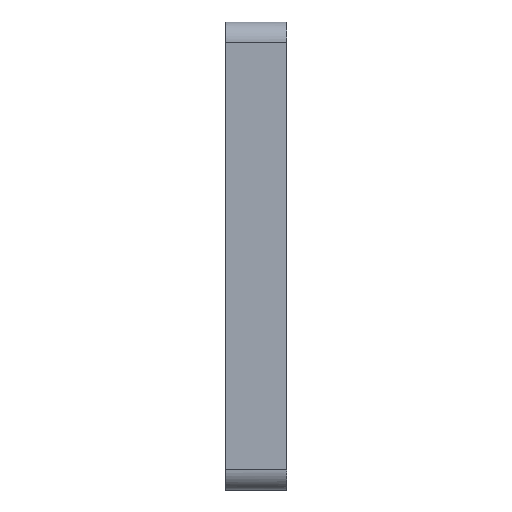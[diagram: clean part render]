
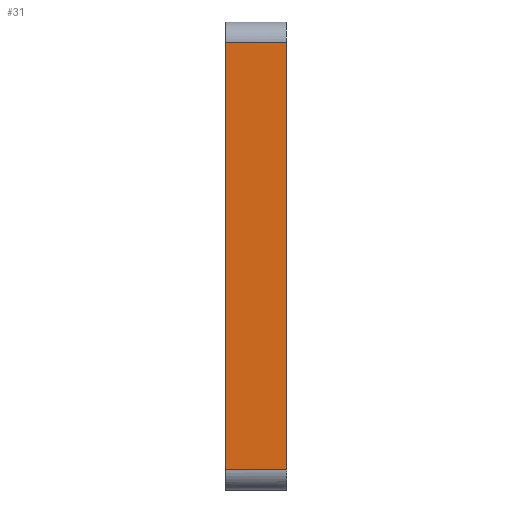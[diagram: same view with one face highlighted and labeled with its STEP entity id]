
A CAD part, left-side view. The second image highlights one B-rep face of the part: STEP entity #31.
In plain terms, the highlighted planar face has unit normal (-1, 0, 0).
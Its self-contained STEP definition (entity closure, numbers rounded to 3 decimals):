
#31=ADVANCED_FACE('',(#57),#951,.T.);
#57=FACE_OUTER_BOUND('',#83,.T.);
#83=EDGE_LOOP('',(#122,#123,#124,#125));
#122=ORIENTED_EDGE('',*,*,#749,.T.);
#123=ORIENTED_EDGE('',*,*,#750,.T.);
#124=ORIENTED_EDGE('',*,*,#751,.T.);
#125=ORIENTED_EDGE('',*,*,#747,.F.);
#263=PCURVE('',#959,#407);
#266=PCURVE('',#951,#410);
#267=PCURVE('',#951,#411);
#268=PCURVE('',#951,#412);
#269=PCURVE('',#951,#413);
#273=PCURVE('',#960,#417);
#358=PCURVE('',#956,#502);
#369=PCURVE('',#957,#513);
#407=DEFINITIONAL_REPRESENTATION('',(#554),#1795);
#410=DEFINITIONAL_REPRESENTATION('',(#558),#1795);
#411=DEFINITIONAL_REPRESENTATION('',(#560),#1795);
#412=DEFINITIONAL_REPRESENTATION('',(#562),#1795);
#413=DEFINITIONAL_REPRESENTATION('',(#563),#1795);
#417=DEFINITIONAL_REPRESENTATION('',(#567),#1795);
#502=DEFINITIONAL_REPRESENTATION('',(#651),#1795);
#513=DEFINITIONAL_REPRESENTATION('',(#654),#1795);
#554=B_SPLINE_CURVE_WITH_KNOTS('',1,(#1277,#1278),.UNSPECIFIED.,.F.,.F.,
(2,2),(0.,3.),.UNSPECIFIED.);
#557=B_SPLINE_CURVE_WITH_KNOTS('',1,(#1286,#1287),.UNSPECIFIED.,.F.,.F.,
(2,2),(-206.416,-185.416),.UNSPECIFIED.);
#558=B_SPLINE_CURVE_WITH_KNOTS('',1,(#1288,#1289),.UNSPECIFIED.,.F.,.F.,
(2,2),(-206.416,-185.416),.UNSPECIFIED.);
#559=B_SPLINE_CURVE_WITH_KNOTS('',1,(#1290,#1291),.UNSPECIFIED.,.F.,.F.,
(2,2),(0.,3.),.UNSPECIFIED.);
#560=B_SPLINE_CURVE_WITH_KNOTS('',1,(#1292,#1293),.UNSPECIFIED.,.F.,.F.,
(2,2),(0.,3.),.UNSPECIFIED.);
#561=B_SPLINE_CURVE_WITH_KNOTS('',1,(#1294,#1295),.UNSPECIFIED.,.F.,.F.,
(2,2),(185.416,206.416),.UNSPECIFIED.);
#562=B_SPLINE_CURVE_WITH_KNOTS('',1,(#1296,#1297),.UNSPECIFIED.,.F.,.F.,
(2,2),(185.416,206.416),.UNSPECIFIED.);
#563=B_SPLINE_CURVE_WITH_KNOTS('',1,(#1298,#1299),.UNSPECIFIED.,.F.,.F.,
(2,2),(0.,3.),.UNSPECIFIED.);
#567=B_SPLINE_CURVE_WITH_KNOTS('',1,(#1314,#1315),.UNSPECIFIED.,.F.,.F.,
(2,2),(0.,3.),.UNSPECIFIED.);
#651=B_SPLINE_CURVE_WITH_KNOTS('',1,(#1649,#1650),.UNSPECIFIED.,.F.,.F.,
(2,2),(-206.416,-185.416),.UNSPECIFIED.);
#654=B_SPLINE_CURVE_WITH_KNOTS('',1,(#1697,#1698),.UNSPECIFIED.,.F.,.F.,
(2,2),(185.416,206.416),.UNSPECIFIED.);
#675=SURFACE_CURVE('',#816,(#263,#269),.PCURVE_S1.);
#677=SURFACE_CURVE('',#557,(#266,#358),.PCURVE_S1.);
#678=SURFACE_CURVE('',#559,(#267,#273),.PCURVE_S1.);
#679=SURFACE_CURVE('',#561,(#268,#369),.PCURVE_S1.);
#747=EDGE_CURVE('',#908,#909,#675,.T.);
#749=EDGE_CURVE('',#908,#910,#677,.T.);
#750=EDGE_CURVE('',#910,#911,#678,.T.);
#751=EDGE_CURVE('',#911,#909,#679,.T.);
#816=(
BOUNDED_CURVE()
B_SPLINE_CURVE(1,(#1275,#1276),.UNSPECIFIED.,.F.,.F.)
B_SPLINE_CURVE_WITH_KNOTS((2,2),(0.,3.),.UNSPECIFIED.)
CURVE()
GEOMETRIC_REPRESENTATION_ITEM()
RATIONAL_B_SPLINE_CURVE((1.,1.))
REPRESENTATION_ITEM('')
);
#908=VERTEX_POINT('',#1196);
#909=VERTEX_POINT('',#1197);
#910=VERTEX_POINT('',#1198);
#911=VERTEX_POINT('',#1199);
#951=PLANE('',#997);
#956=PLANE('',#1002);
#957=PLANE('',#1003);
#959=(
BOUNDED_SURFACE()
B_SPLINE_SURFACE(2,1,((#1025,#1026),(#1027,#1028),(#1029,#1030)),
 .UNSPECIFIED.,.F.,.F.,.F.)
B_SPLINE_SURFACE_WITH_KNOTS((3,3),(2,2),(-207.987,-206.416),
(0.,3.),.UNSPECIFIED.)
GEOMETRIC_REPRESENTATION_ITEM()
RATIONAL_B_SPLINE_SURFACE(((1.,1.),(0.707,0.707),
(1.,1.)))
REPRESENTATION_ITEM('')
SURFACE()
);
#960=(
BOUNDED_SURFACE()
B_SPLINE_SURFACE(2,1,((#1032,#1033),(#1034,#1035),(#1036,#1037)),
 .UNSPECIFIED.,.F.,.F.,.F.)
B_SPLINE_SURFACE_WITH_KNOTS((3,3),(2,2),(-185.416,-183.845),
(0.,3.),.UNSPECIFIED.)
GEOMETRIC_REPRESENTATION_ITEM()
RATIONAL_B_SPLINE_SURFACE(((1.,1.),(0.707,0.707),
(1.,1.)))
REPRESENTATION_ITEM('')
SURFACE()
);
#997=AXIS2_PLACEMENT_3D('',#1031,#1008,$);
#1002=AXIS2_PLACEMENT_3D('',#1152,#1013,$);
#1003=AXIS2_PLACEMENT_3D('',#1153,#1014,$);
#1008=DIRECTION('',(-1.,0.,0.));
#1013=DIRECTION('',(0.,-1.,0.));
#1014=DIRECTION('',(0.,1.,0.));
#1025=CARTESIAN_POINT('',(745.,319.,-72.));
#1026=CARTESIAN_POINT('',(745.,322.,-72.));
#1027=CARTESIAN_POINT('',(744.,319.,-72.));
#1028=CARTESIAN_POINT('',(744.,322.,-72.));
#1029=CARTESIAN_POINT('',(744.,319.,-71.));
#1030=CARTESIAN_POINT('',(744.,322.,-71.));
#1031=CARTESIAN_POINT('',(744.,319.,-71.));
#1032=CARTESIAN_POINT('',(744.,319.,-50.));
#1033=CARTESIAN_POINT('',(744.,322.,-50.));
#1034=CARTESIAN_POINT('',(744.,319.,-49.));
#1035=CARTESIAN_POINT('',(744.,322.,-49.));
#1036=CARTESIAN_POINT('',(745.,319.,-49.));
#1037=CARTESIAN_POINT('',(745.,322.,-49.));
#1152=CARTESIAN_POINT('',(800.25,319.,-74.875));
#1153=CARTESIAN_POINT('',(800.25,322.,-74.875));
#1196=CARTESIAN_POINT('',(744.,319.,-71.));
#1197=CARTESIAN_POINT('',(744.,322.,-71.));
#1198=CARTESIAN_POINT('',(744.,319.,-50.));
#1199=CARTESIAN_POINT('',(744.,322.,-50.));
#1275=CARTESIAN_POINT('',(744.,319.,-71.));
#1276=CARTESIAN_POINT('',(744.,322.,-71.));
#1277=CARTESIAN_POINT('',(-206.416,0.));
#1278=CARTESIAN_POINT('',(-206.416,3.));
#1286=CARTESIAN_POINT('',(744.,319.,-71.));
#1287=CARTESIAN_POINT('',(744.,319.,-50.));
#1288=CARTESIAN_POINT('',(-206.416,0.));
#1289=CARTESIAN_POINT('',(-185.416,0.));
#1290=CARTESIAN_POINT('',(744.,319.,-50.));
#1291=CARTESIAN_POINT('',(744.,322.,-50.));
#1292=CARTESIAN_POINT('',(-185.416,0.));
#1293=CARTESIAN_POINT('',(-185.416,3.));
#1294=CARTESIAN_POINT('',(744.,322.,-50.));
#1295=CARTESIAN_POINT('',(744.,322.,-71.));
#1296=CARTESIAN_POINT('',(-185.416,3.));
#1297=CARTESIAN_POINT('',(-206.416,3.));
#1298=CARTESIAN_POINT('',(-206.416,0.));
#1299=CARTESIAN_POINT('',(-206.416,3.));
#1314=CARTESIAN_POINT('',(-185.416,0.));
#1315=CARTESIAN_POINT('',(-185.416,3.));
#1649=CARTESIAN_POINT('',(32.,45.1));
#1650=CARTESIAN_POINT('',(53.,45.1));
#1697=CARTESIAN_POINT('',(45.1,53.));
#1698=CARTESIAN_POINT('',(45.1,32.));
#1795=(
GEOMETRIC_REPRESENTATION_CONTEXT(2)
PARAMETRIC_REPRESENTATION_CONTEXT()
REPRESENTATION_CONTEXT('pspace','')
);
